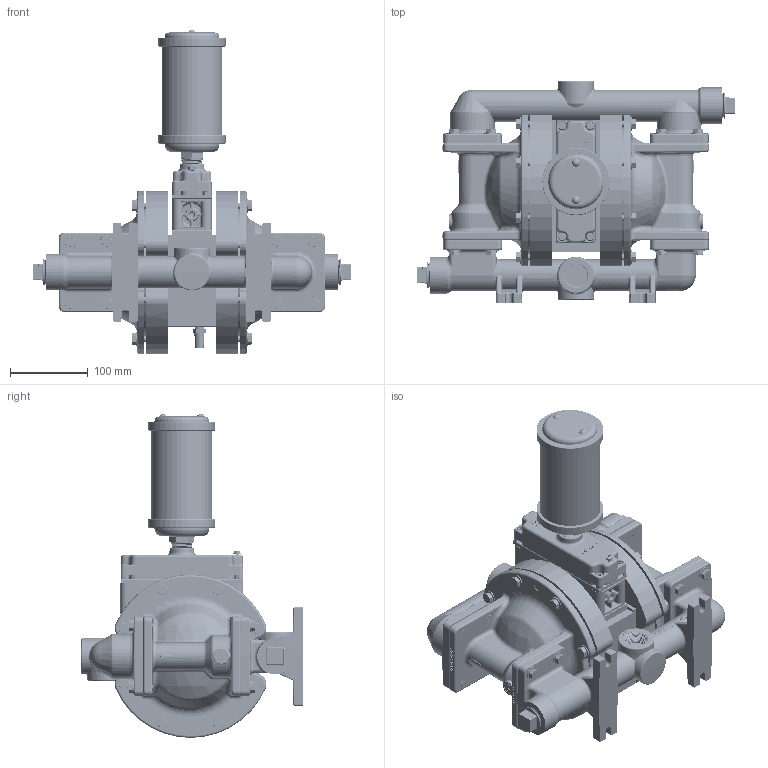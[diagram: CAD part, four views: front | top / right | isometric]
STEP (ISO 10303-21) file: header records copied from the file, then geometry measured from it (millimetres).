
FILE_DESCRIPTION (( 'STEP AP203' ), '1' );
FILE_NAME ('PS220_CP_AAAAA_677.STEP', '2022-05-30T10:49:23', ( '' ), ( '' ), 'SwSTEP 2.0', 'SolidWorks 2019', '' );
FILE_SCHEMA (( 'CONFIG_CONTROL_DESIGN' ));
Length unit declared in the file: inch
Products named in the file (1): PS220_CP_AAAAA_677
Bounding box: 408.08 x 285.75 x 416.87 mm (x, y, z)
Volume: 8423230.6 mm3; surface area: 599833.5 mm2
Topology: 1 solids, 1 shells, 6661 faces, 17218 edges, 10884 vertices
Faces by surface type: plane 4102, cylinder 1035, bspline 568, cone 521, torus 302, sphere 133
Entity records: 275697 total; most frequent: CARTESIAN_POINT 117404, ORIENTED_EDGE 34432, DIRECTION 30544, EDGE_CURVE 17216, LINE 11732, VECTOR 11732, VERTEX_POINT 10883, AXIS2_PLACEMENT_3D 9406
